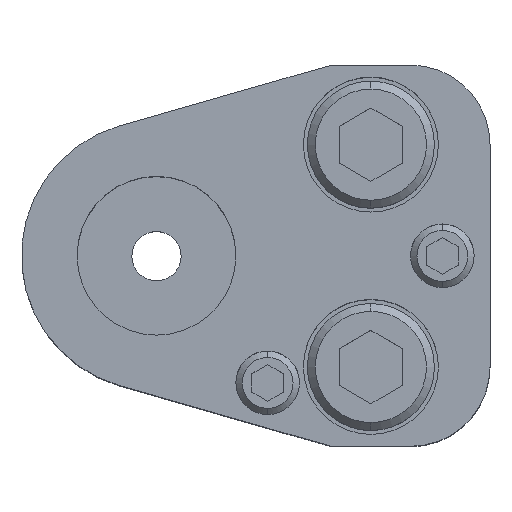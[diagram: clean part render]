
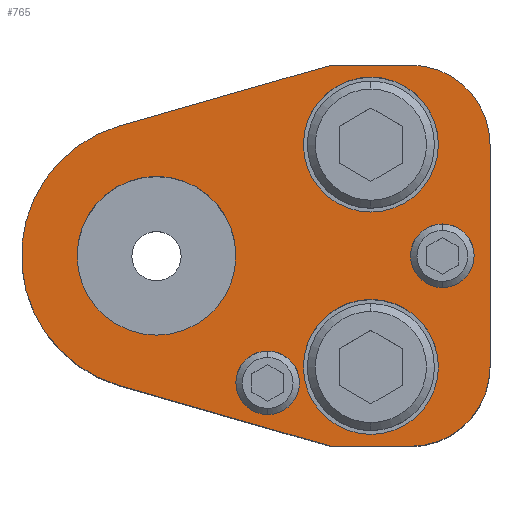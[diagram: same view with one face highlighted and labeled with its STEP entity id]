
A CAD part, top view. The second image highlights one B-rep face of the part: STEP entity #765.
In plain terms, the highlighted planar face has unit normal (0, 0, 1).
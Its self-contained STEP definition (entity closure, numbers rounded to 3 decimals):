
#144=FACE_BOUND('',#1151,.T.);
#145=FACE_BOUND('',#1152,.T.);
#146=FACE_BOUND('',#1153,.T.);
#147=FACE_BOUND('',#1154,.T.);
#148=FACE_BOUND('',#1155,.T.);
#149=FACE_BOUND('',#1156,.T.);
#352=LINE('',#4212,#556);
#357=LINE('',#4227,#561);
#360=LINE('',#4233,#564);
#365=LINE('',#4246,#569);
#377=LINE('',#4305,#581);
#384=LINE('',#4326,#588);
#556=VECTOR('',#3390,1.);
#561=VECTOR('',#3403,1.);
#564=VECTOR('',#3408,1.);
#569=VECTOR('',#3421,1.);
#581=VECTOR('',#3487,1.);
#588=VECTOR('',#3506,1.);
#765=ADVANCED_FACE('',(#144,#145,#146,#147,#148,#149),#863,.T.);
#863=PLANE('',#2873);
#1151=EDGE_LOOP('',(#1689,#1690,#1691,#1692,#1693,#1694,#1695,#1696,#1697));
#1152=EDGE_LOOP('',(#1698,#1699));
#1153=EDGE_LOOP('',(#1700,#1701));
#1154=EDGE_LOOP('',(#1702,#1703));
#1155=EDGE_LOOP('',(#1704,#1705));
#1156=EDGE_LOOP('',(#1706,#1707));
#1689=ORIENTED_EDGE('',*,*,#2341,.T.);
#1690=ORIENTED_EDGE('',*,*,#2345,.T.);
#1691=ORIENTED_EDGE('',*,*,#2348,.T.);
#1692=ORIENTED_EDGE('',*,*,#2386,.T.);
#1693=ORIENTED_EDGE('',*,*,#2400,.T.);
#1694=ORIENTED_EDGE('',*,*,#2397,.T.);
#1695=ORIENTED_EDGE('',*,*,#2351,.T.);
#1696=ORIENTED_EDGE('',*,*,#2355,.T.);
#1697=ORIENTED_EDGE('',*,*,#2358,.T.);
#1698=ORIENTED_EDGE('',*,*,#2404,.F.);
#1699=ORIENTED_EDGE('',*,*,#2405,.F.);
#1700=ORIENTED_EDGE('',*,*,#2406,.F.);
#1701=ORIENTED_EDGE('',*,*,#2407,.F.);
#1702=ORIENTED_EDGE('',*,*,#2381,.F.);
#1703=ORIENTED_EDGE('',*,*,#2377,.F.);
#1704=ORIENTED_EDGE('',*,*,#2375,.F.);
#1705=ORIENTED_EDGE('',*,*,#2371,.F.);
#1706=ORIENTED_EDGE('',*,*,#2408,.T.);
#1707=ORIENTED_EDGE('',*,*,#2409,.T.);
#2045=VERTEX_POINT('',#4211);
#2046=VERTEX_POINT('',#4213);
#2049=VERTEX_POINT('',#4220);
#2051=VERTEX_POINT('',#4226);
#2053=VERTEX_POINT('',#4232);
#2054=VERTEX_POINT('',#4234);
#2057=VERTEX_POINT('',#4241);
#2066=VERTEX_POINT('',#4273);
#2067=VERTEX_POINT('',#4274);
#2070=VERTEX_POINT('',#4286);
#2071=VERTEX_POINT('',#4287);
#2077=VERTEX_POINT('',#4304);
#2086=VERTEX_POINT('',#4327);
#2089=VERTEX_POINT('',#4345);
#2090=VERTEX_POINT('',#4346);
#2091=VERTEX_POINT('',#4349);
#2092=VERTEX_POINT('',#4350);
#2093=VERTEX_POINT('',#4353);
#2094=VERTEX_POINT('',#4354);
#2341=EDGE_CURVE('',#2046,#2045,#352,.T.);
#2345=EDGE_CURVE('',#2045,#2049,#2589,.T.);
#2348=EDGE_CURVE('',#2049,#2051,#357,.T.);
#2351=EDGE_CURVE('',#2054,#2053,#360,.T.);
#2355=EDGE_CURVE('',#2053,#2057,#2591,.T.);
#2358=EDGE_CURVE('',#2057,#2046,#365,.T.);
#2371=EDGE_CURVE('',#2066,#2067,#2601,.T.);
#2375=EDGE_CURVE('',#2067,#2066,#2603,.T.);
#2377=EDGE_CURVE('',#2070,#2071,#2605,.T.);
#2381=EDGE_CURVE('',#2071,#2070,#2607,.T.);
#2386=EDGE_CURVE('',#2051,#2077,#377,.T.);
#2397=EDGE_CURVE('',#2086,#2054,#384,.T.);
#2400=EDGE_CURVE('',#2077,#2086,#2614,.T.);
#2404=EDGE_CURVE('',#2089,#2090,#2615,.T.);
#2405=EDGE_CURVE('',#2090,#2089,#2616,.T.);
#2406=EDGE_CURVE('',#2091,#2092,#2617,.T.);
#2407=EDGE_CURVE('',#2092,#2091,#2618,.T.);
#2408=EDGE_CURVE('',#2093,#2094,#2619,.T.);
#2409=EDGE_CURVE('',#2094,#2093,#2620,.T.);
#2589=CIRCLE('',#2821,10.);
#2591=CIRCLE('',#2826,10.);
#2601=CIRCLE('',#2842,8.5);
#2603=CIRCLE('',#2845,8.5);
#2605=CIRCLE('',#2849,8.5);
#2607=CIRCLE('',#2852,8.5);
#2614=CIRCLE('',#2864,17.);
#2615=CIRCLE('',#2867,4.);
#2616=CIRCLE('',#2868,4.);
#2617=CIRCLE('',#2869,4.);
#2618=CIRCLE('',#2870,4.);
#2619=CIRCLE('',#2871,10.);
#2620=CIRCLE('',#2872,10.);
#2821=AXIS2_PLACEMENT_3D('',#4221,#3396,#3397);
#2826=AXIS2_PLACEMENT_3D('',#4242,#3414,#3415);
#2842=AXIS2_PLACEMENT_3D('',#4272,#3452,#3453);
#2845=AXIS2_PLACEMENT_3D('',#4281,#3460,#3461);
#2849=AXIS2_PLACEMENT_3D('',#4285,#3468,#3469);
#2852=AXIS2_PLACEMENT_3D('',#4294,#3476,#3477);
#2864=AXIS2_PLACEMENT_3D('',#4331,#3512,#3513);
#2867=AXIS2_PLACEMENT_3D('',#4344,#3520,#3521);
#2868=AXIS2_PLACEMENT_3D('',#4347,#3522,#3523);
#2869=AXIS2_PLACEMENT_3D('',#4348,#3524,#3525);
#2870=AXIS2_PLACEMENT_3D('',#4351,#3526,#3527);
#2871=AXIS2_PLACEMENT_3D('',#4352,#3528,#3529);
#2872=AXIS2_PLACEMENT_3D('',#4355,#3530,#3531);
#2873=AXIS2_PLACEMENT_3D('',#4356,#3532,#3533);
#3390=DIRECTION('',(0.,1.,0.));
#3396=DIRECTION('',(0.,0.,1.));
#3397=DIRECTION('',(-0.707,-0.707,0.));
#3403=DIRECTION('',(-1.,0.,0.));
#3408=DIRECTION('',(1.,0.,0.));
#3414=DIRECTION('',(0.,0.,1.));
#3415=DIRECTION('',(-0.707,0.707,0.));
#3421=DIRECTION('',(0.,1.,0.));
#3452=DIRECTION('',(0.,0.,1.));
#3453=DIRECTION('',(-1.,0.,0.));
#3460=DIRECTION('',(0.,0.,1.));
#3461=DIRECTION('',(1.,0.,0.));
#3468=DIRECTION('',(0.,0.,1.));
#3469=DIRECTION('',(-1.,0.,0.));
#3476=DIRECTION('',(0.,0.,1.));
#3477=DIRECTION('',(1.,0.,0.));
#3487=DIRECTION('',(-0.961,-0.276,0.));
#3506=DIRECTION('',(0.961,-0.276,0.));
#3512=DIRECTION('',(0.,0.,1.));
#3513=DIRECTION('',(1.,0.,0.));
#3520=DIRECTION('',(0.,0.,1.));
#3521=DIRECTION('',(1.,0.,0.));
#3522=DIRECTION('',(0.,0.,1.));
#3523=DIRECTION('',(-1.,0.,0.));
#3524=DIRECTION('',(0.,0.,1.));
#3525=DIRECTION('',(1.,0.,0.));
#3526=DIRECTION('',(0.,0.,1.));
#3527=DIRECTION('',(-1.,0.,0.));
#3528=DIRECTION('',(0.,0.,-1.));
#3529=DIRECTION('',(-1.,0.,0.));
#3530=DIRECTION('',(0.,0.,-1.));
#3531=DIRECTION('',(1.,0.,0.));
#3532=DIRECTION('',(0.,0.,1.));
#3533=DIRECTION('',(0.,-1.,0.));
#4211=CARTESIAN_POINT('',(42.,14.,40.));
#4212=CARTESIAN_POINT('',(42.,14.,40.));
#4213=CARTESIAN_POINT('',(42.,0.,40.));
#4220=CARTESIAN_POINT('',(32.,24.,40.));
#4221=CARTESIAN_POINT('',(32.,14.,40.));
#4226=CARTESIAN_POINT('',(22.,24.,40.));
#4227=CARTESIAN_POINT('',(22.,24.,40.));
#4232=CARTESIAN_POINT('',(32.,-24.,40.));
#4233=CARTESIAN_POINT('',(22.,-24.,40.));
#4234=CARTESIAN_POINT('',(22.,-24.,40.));
#4241=CARTESIAN_POINT('',(42.,-14.,40.));
#4242=CARTESIAN_POINT('',(32.,-14.,40.));
#4246=CARTESIAN_POINT('',(42.,-14.,40.));
#4272=CARTESIAN_POINT('',(27.,-14.,40.));
#4273=CARTESIAN_POINT('',(27.,-22.5,40.));
#4274=CARTESIAN_POINT('',(27.,-5.5,40.));
#4281=CARTESIAN_POINT('',(27.,-14.,40.));
#4285=CARTESIAN_POINT('',(27.,14.,40.));
#4286=CARTESIAN_POINT('',(27.,5.5,40.));
#4287=CARTESIAN_POINT('',(27.,22.5,40.));
#4294=CARTESIAN_POINT('',(27.,14.,40.));
#4304=CARTESIAN_POINT('',(-4.69,16.34,40.));
#4305=CARTESIAN_POINT('',(22.,24.,40.));
#4326=CARTESIAN_POINT('',(22.,-24.,40.));
#4327=CARTESIAN_POINT('',(-4.69,-16.34,40.));
#4331=CARTESIAN_POINT('',(0.,0.,40.));
#4344=CARTESIAN_POINT('',(36.,0.,40.));
#4345=CARTESIAN_POINT('',(36.,4.,40.));
#4346=CARTESIAN_POINT('',(36.,-4.,40.));
#4347=CARTESIAN_POINT('',(36.,0.,40.));
#4348=CARTESIAN_POINT('',(14.,-16.,40.));
#4349=CARTESIAN_POINT('',(14.,-12.,40.));
#4350=CARTESIAN_POINT('',(14.,-20.,40.));
#4351=CARTESIAN_POINT('',(14.,-16.,40.));
#4352=CARTESIAN_POINT('',(0.,0.,40.));
#4353=CARTESIAN_POINT('',(0.,10.,40.));
#4354=CARTESIAN_POINT('',(0.,-10.,40.));
#4355=CARTESIAN_POINT('',(0.,0.,40.));
#4356=CARTESIAN_POINT('',(42.,0.,40.));
